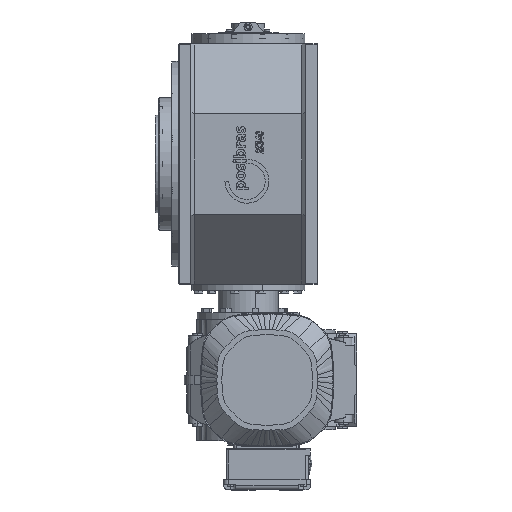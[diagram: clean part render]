
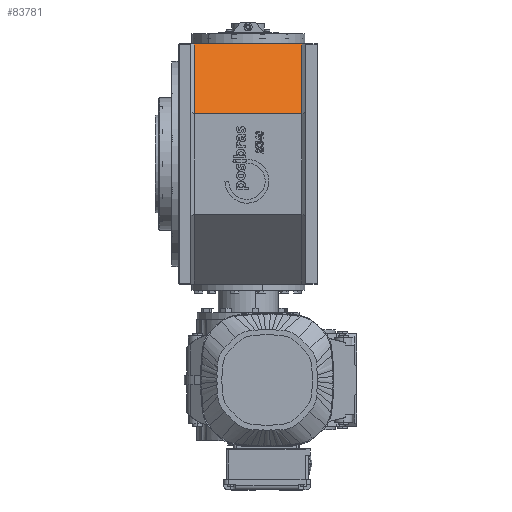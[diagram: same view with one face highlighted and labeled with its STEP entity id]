
A CAD part, left-side view. The second image highlights one B-rep face of the part: STEP entity #83781.
In plain terms, the highlighted planar face has unit normal (-0.707, 0, 0.707).
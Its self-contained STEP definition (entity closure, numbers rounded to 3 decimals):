
#5291 = VECTOR ( 'NONE', #40329, 1000. ) ;
#6977 = EDGE_CURVE ( 'NONE', #16916, #91071, #94229, .T. ) ;
#7167 = ORIENTED_EDGE ( 'NONE', *, *, #70429, .F. ) ;
#16550 = CARTESIAN_POINT ( 'NONE',  ( -83.259, 26., 199. ) ) ;
#16916 = VERTEX_POINT ( 'NONE', #37905 ) ;
#19172 = DIRECTION ( 'NONE',  ( -0.707, 0., -0.707 ) ) ;
#22211 = CARTESIAN_POINT ( 'NONE',  ( -83.259, 204., 199. ) ) ;
#22784 = ORIENTED_EDGE ( 'NONE', *, *, #6977, .T. ) ;
#23672 = DIRECTION ( 'NONE',  ( -0.707, 0., -0.707 ) ) ;
#24474 = CARTESIAN_POINT ( 'NONE',  ( -199., 210., 83.259 ) ) ;
#28642 = ORIENTED_EDGE ( 'NONE', *, *, #33031, .T. ) ;
#29336 = VECTOR ( 'NONE', #37300, 1000. ) ;
#30283 = VECTOR ( 'NONE', #19172, 1000. ) ;
#32598 = EDGE_LOOP ( 'NONE', ( #7167, #28642, #22784, #60165 ) ) ;
#33031 = EDGE_CURVE ( 'NONE', #55420, #16916, #100362, .T. ) ;
#37300 = DIRECTION ( 'NONE',  ( 0., -1., 0. ) ) ;
#37905 = CARTESIAN_POINT ( 'NONE',  ( -199., 204., 83.259 ) ) ;
#40329 = DIRECTION ( 'NONE',  ( 0.707, 0., 0.707 ) ) ;
#47891 = CARTESIAN_POINT ( 'NONE',  ( -83.259, 210., 199. ) ) ;
#48205 = LINE ( 'NONE', #16550, #5291 ) ;
#48465 = VERTEX_POINT ( 'NONE', #68094 ) ;
#50232 = AXIS2_PLACEMENT_3D ( 'NONE', #47891, #95883, #23672 ) ;
#53362 = CARTESIAN_POINT ( 'NONE',  ( -83.259, 210., 199. ) ) ;
#55420 = VERTEX_POINT ( 'NONE', #22211 ) ;
#60165 = ORIENTED_EDGE ( 'NONE', *, *, #102115, .T. ) ;
#60769 = LINE ( 'NONE', #53362, #78730 ) ;
#62298 = DIRECTION ( 'NONE',  ( 0., -1., 0. ) ) ;
#68094 = CARTESIAN_POINT ( 'NONE',  ( -83.259, 26., 199. ) ) ;
#70429 = EDGE_CURVE ( 'NONE', #55420, #48465, #60769, .T. ) ;
#78730 = VECTOR ( 'NONE', #62298, 1000. ) ;
#81961 = CARTESIAN_POINT ( 'NONE',  ( -199., 26., 83.259 ) ) ;
#83781 = ADVANCED_FACE ( 'NONE', ( #103790 ), #86504, .F. ) ;
#86504 = PLANE ( 'NONE',  #50232 ) ;
#91071 = VERTEX_POINT ( 'NONE', #81961 ) ;
#94229 = LINE ( 'NONE', #24474, #29336 ) ;
#95883 = DIRECTION ( 'NONE',  ( 0.707, 0., -0.707 ) ) ;
#99317 = CARTESIAN_POINT ( 'NONE',  ( -199., 204., 83.259 ) ) ;
#100362 = LINE ( 'NONE', #99317, #30283 ) ;
#102115 = EDGE_CURVE ( 'NONE', #91071, #48465, #48205, .T. ) ;
#103790 = FACE_OUTER_BOUND ( 'NONE', #32598, .T. ) ;
